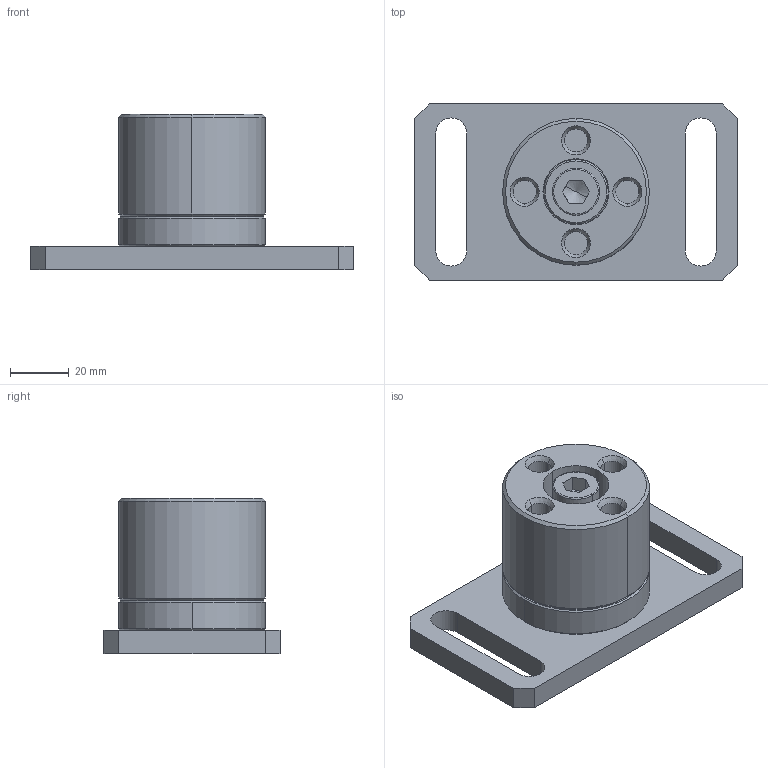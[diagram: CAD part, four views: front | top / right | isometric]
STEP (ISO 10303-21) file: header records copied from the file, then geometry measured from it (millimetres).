
FILE_DESCRIPTION(('CATIA V5 STEP Exchange'),'2;1');
FILE_NAME('D:\姚明阳\1、工装图纸\AGZ101 分体VDC阀压阀杆治具\AGZ101.00_V1 VDC分体阀芯压装治具.stp','2023-08-29T01:09:34+00:00',('none'),('none'),'CATIA Version 5 Release 21 GA (IN-10)','CATIA V5 STEP AP214','none');
FILE_SCHEMA(('AUTOMOTIVE_DESIGN { 1 0 10303 214 1 1 1 1 }'));
Length unit declared in the file: millimetre
Products named in the file (9): AGZ101.00_V1; AGZ101.01_V1; AGZ101.02_V1; AGZ101.03_V1; AGZ101.04_V1; ISO 4762 SCREW M10x25 STEEL HEXAGON SOCKET HEAD CAP; C-BPK5-20P; C-BPK5-20P_ba; C-BPK5-20P_b
Assembly tree (9 placements, depth 3):
  AGZ101.00_V1
    AGZ101.01_V1
    AGZ101.02_V1
    AGZ101.03_V1
    AGZ101.04_V1
    ISO 4762 SCREW M10x25 STEEL HEXAGON SOCKET HEAD CAP
    C-BPK5-20P  x2
      C-BPK5-20P_ba
      C-BPK5-20P_b
Bounding box: 110 x 60 x 53 mm (x, y, z)
Volume: 121122.6 mm3; surface area: 41632.5 mm2
Topology: 9 solids, 9 shells, 227 faces, 552 edges, 342 vertices
Faces by surface type: cylinder 92, plane 77, cone 38, sphere 16, torus 4
Entity records: 5851 total; most frequent: CARTESIAN_POINT 1129, ORIENTED_EDGE 912, DIRECTION 754, EDGE_CURVE 456, AXIS2_PLACEMENT_3D 398, VERTEX_POINT 297, EDGE_LOOP 257, CIRCLE 238
